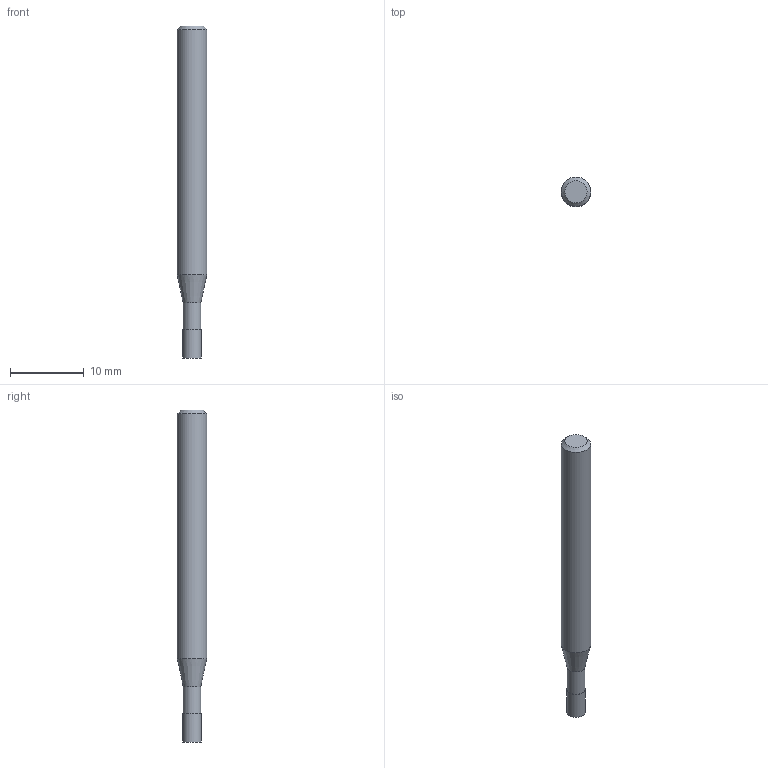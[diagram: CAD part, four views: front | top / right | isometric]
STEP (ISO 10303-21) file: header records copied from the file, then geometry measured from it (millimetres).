
FILE_DESCRIPTION((''),'2;1');
FILE_NAME('C:\Users\nsx150\AppData\Local\Temp\Mastercam 2021\EUJSUNXURU\TEMP.step','2021-04-22T10:27:51',(''),(''),'STEP Write','Mastercam 2021 ... CNC Software, Inc.','');
FILE_SCHEMA(('AUTOMOTIVE_DESIGN'));
Length unit declared in the file: millimetre
Products named in the file (1): None
Bounding box: 4 x 4 x 45 mm (x, y, z)
Volume: 488.8 mm3; surface area: 543.3 mm2
Topology: 2 solids, 2 shells, 9 faces, 12 edges, 7 vertices
Faces by surface type: plane 4, cylinder 3, cone 2
Full cylindrical faces by diameter (mm): 2.4 x1, 2.5 x1, 4 x1
Entity records: 211 total; most frequent: DIRECTION 36, CARTESIAN_POINT 25, AXIS2_PLACEMENT_3D 18, ORIENTED_EDGE 14, EDGE_LOOP 14, STYLED_ITEM 12, ADVANCED_FACE 9, FACE_BOUND 8
